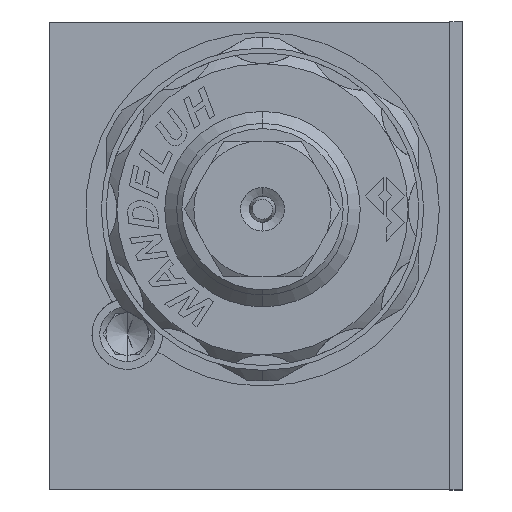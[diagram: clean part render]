
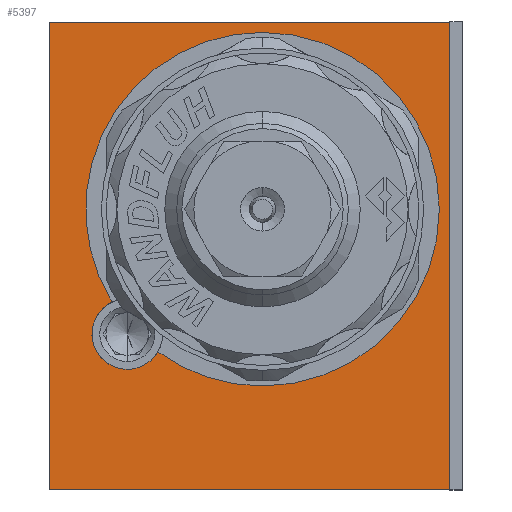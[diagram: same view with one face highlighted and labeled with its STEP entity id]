
A CAD part, left-side view. The second image highlights one B-rep face of the part: STEP entity #5397.
In plain terms, the highlighted planar face has unit normal (-1, 0, 0).
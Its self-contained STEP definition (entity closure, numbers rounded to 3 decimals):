
#153 = DIRECTION ( 'NONE',  ( 0., 1., 0. ) ) ;
#274 = CARTESIAN_POINT ( 'NONE',  ( 0., -1.25, 4.5 ) ) ;
#296 = DIRECTION ( 'NONE',  ( 0., 0., 1. ) ) ;
#374 = DIRECTION ( 'NONE',  ( 0., 0., 1. ) ) ;
#383 = DIRECTION ( 'NONE',  ( -1., 0., 0. ) ) ;
#426 = CARTESIAN_POINT ( 'NONE',  ( 0., 19.25, -22.5 ) ) ;
#536 = VERTEX_POINT ( 'NONE', #5640 ) ;
#605 = DIRECTION ( 'NONE',  ( 0., 0., 1. ) ) ;
#885 = LINE ( 'NONE', #19082, #9330 ) ;
#913 = LINE ( 'NONE', #3188, #18506 ) ;
#1204 = PLANE ( 'NONE',  #11494 ) ;
#1762 = FACE_BOUND ( 'NONE', #17974, .T. ) ;
#1950 = FACE_OUTER_BOUND ( 'NONE', #16225, .T. ) ;
#2106 = EDGE_CURVE ( 'NONE', #12198, #19075, #4204, .T. ) ;
#2731 = ORIENTED_EDGE ( 'NONE', *, *, #3203, .F. ) ;
#2781 = ORIENTED_EDGE ( 'NONE', *, *, #13735, .F. ) ;
#3188 = CARTESIAN_POINT ( 'NONE',  ( 0., -19.25, 22.5 ) ) ;
#3203 = EDGE_CURVE ( 'NONE', #7453, #9589, #13743, .T. ) ;
#3480 = VECTOR ( 'NONE', #153, 1000. ) ;
#3830 = DIRECTION ( 'NONE',  ( 0., 0., 1. ) ) ;
#3835 = DIRECTION ( 'NONE',  ( -1., 0., 0. ) ) ;
#3897 = CARTESIAN_POINT ( 'NONE',  ( 0., -1.25, 4.5 ) ) ;
#4171 = ORIENTED_EDGE ( 'NONE', *, *, #21239, .F. ) ;
#4204 = CIRCLE ( 'NONE', #11444, 17. ) ;
#4550 = DIRECTION ( 'NONE',  ( 0., 0., 1. ) ) ;
#4609 = CARTESIAN_POINT ( 'NONE',  ( 0., -1.25, -12.5 ) ) ;
#4683 = VERTEX_POINT ( 'NONE', #13844 ) ;
#4921 = DIRECTION ( 'NONE',  ( 0., 0., -1. ) ) ;
#5329 = CARTESIAN_POINT ( 'NONE',  ( 0., 19.25, 22.5 ) ) ;
#5397 = ADVANCED_FACE ( 'NONE', ( #1762, #1950 ), #1204, .T. ) ;
#5553 = CARTESIAN_POINT ( 'NONE',  ( 0., 8.808, -9.205 ) ) ;
#5640 = CARTESIAN_POINT ( 'NONE',  ( 0., 19.25, -22.5 ) ) ;
#5826 = CARTESIAN_POINT ( 'NONE',  ( 0., 13.215, -4.432 ) ) ;
#7433 = DIRECTION ( 'NONE',  ( -1., 0., 0. ) ) ;
#7453 = VERTEX_POINT ( 'NONE', #5826 ) ;
#9265 = VERTEX_POINT ( 'NONE', #18554 ) ;
#9330 = VECTOR ( 'NONE', #19175, 1000. ) ;
#9589 = VERTEX_POINT ( 'NONE', #15799 ) ;
#10214 = CARTESIAN_POINT ( 'NONE',  ( 0., -19.25, -22.5 ) ) ;
#10371 = DIRECTION ( 'NONE',  ( -1., 0., 0. ) ) ;
#10384 = LINE ( 'NONE', #10214, #3480 ) ;
#10994 = VERTEX_POINT ( 'NONE', #20196 ) ;
#11021 = CARTESIAN_POINT ( 'NONE',  ( 0., -1.25, 21.5 ) ) ;
#11444 = AXIS2_PLACEMENT_3D ( 'NONE', #274, #7433, #605 ) ;
#11494 = AXIS2_PLACEMENT_3D ( 'NONE', #426, #383, #374 ) ;
#11872 = ORIENTED_EDGE ( 'NONE', *, *, #17876, .F. ) ;
#11884 = AXIS2_PLACEMENT_3D ( 'NONE', #12751, #12688, #13007 ) ;
#12198 = VERTEX_POINT ( 'NONE', #5553 ) ;
#12688 = DIRECTION ( 'NONE',  ( -1., 0., 0. ) ) ;
#12751 = CARTESIAN_POINT ( 'NONE',  ( 0., 11.75, -7.5 ) ) ;
#13007 = DIRECTION ( 'NONE',  ( 0., 0., 1. ) ) ;
#13269 = ORIENTED_EDGE ( 'NONE', *, *, #19077, .F. ) ;
#13735 = EDGE_CURVE ( 'NONE', #9265, #4683, #885, .T. ) ;
#13743 = CIRCLE ( 'NONE', #11884, 3.4 ) ;
#13844 = CARTESIAN_POINT ( 'NONE',  ( 0., -19.25, 22.5 ) ) ;
#14544 = ORIENTED_EDGE ( 'NONE', *, *, #20446, .F. ) ;
#14784 = VECTOR ( 'NONE', #4550, 1000. ) ;
#15725 = EDGE_CURVE ( 'NONE', #19075, #20794, #18866, .T. ) ;
#15799 = CARTESIAN_POINT ( 'NONE',  ( 0., 11.75, -10.9 ) ) ;
#16162 = AXIS2_PLACEMENT_3D ( 'NONE', #3897, #3835, #3830 ) ;
#16225 = EDGE_LOOP ( 'NONE', ( #4171, #17588, #2781, #13269 ) ) ;
#16499 = CIRCLE ( 'NONE', #18613, 3.4 ) ;
#17286 = ORIENTED_EDGE ( 'NONE', *, *, #15725, .F. ) ;
#17588 = ORIENTED_EDGE ( 'NONE', *, *, #20176, .F. ) ;
#17876 = EDGE_CURVE ( 'NONE', #20794, #7453, #19058, .T. ) ;
#17974 = EDGE_LOOP ( 'NONE', ( #2731, #11872, #17286, #19353, #14544 ) ) ;
#18506 = VECTOR ( 'NONE', #4921, 1000. ) ;
#18554 = CARTESIAN_POINT ( 'NONE',  ( 0., 19.25, 22.5 ) ) ;
#18613 = AXIS2_PLACEMENT_3D ( 'NONE', #20047, #10371, #296 ) ;
#18860 = AXIS2_PLACEMENT_3D ( 'NONE', #20809, #20784, #20764 ) ;
#18866 = CIRCLE ( 'NONE', #16162, 17. ) ;
#19021 = LINE ( 'NONE', #5329, #14784 ) ;
#19058 = CIRCLE ( 'NONE', #18860, 17. ) ;
#19075 = VERTEX_POINT ( 'NONE', #4609 ) ;
#19077 = EDGE_CURVE ( 'NONE', #536, #9265, #19021, .T. ) ;
#19082 = CARTESIAN_POINT ( 'NONE',  ( 0., -19.25, 22.5 ) ) ;
#19175 = DIRECTION ( 'NONE',  ( 0., -1., 0. ) ) ;
#19353 = ORIENTED_EDGE ( 'NONE', *, *, #2106, .F. ) ;
#20047 = CARTESIAN_POINT ( 'NONE',  ( 0., 11.75, -7.5 ) ) ;
#20176 = EDGE_CURVE ( 'NONE', #4683, #10994, #913, .T. ) ;
#20196 = CARTESIAN_POINT ( 'NONE',  ( 0., -19.25, -22.5 ) ) ;
#20446 = EDGE_CURVE ( 'NONE', #9589, #12198, #16499, .T. ) ;
#20764 = DIRECTION ( 'NONE',  ( 0., 0., 1. ) ) ;
#20784 = DIRECTION ( 'NONE',  ( -1., 0., 0. ) ) ;
#20794 = VERTEX_POINT ( 'NONE', #11021 ) ;
#20809 = CARTESIAN_POINT ( 'NONE',  ( 0., -1.25, 4.5 ) ) ;
#21239 = EDGE_CURVE ( 'NONE', #10994, #536, #10384, .T. ) ;
